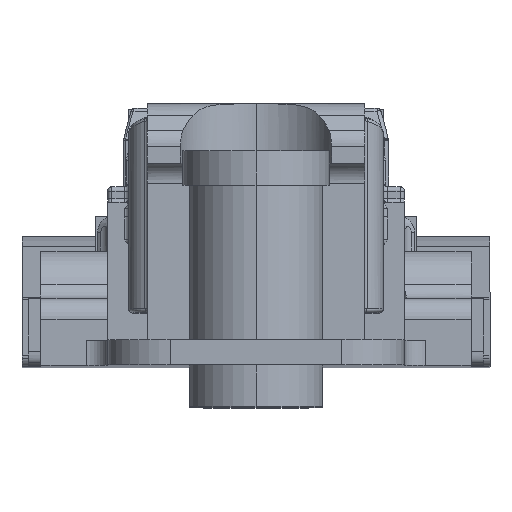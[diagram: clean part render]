
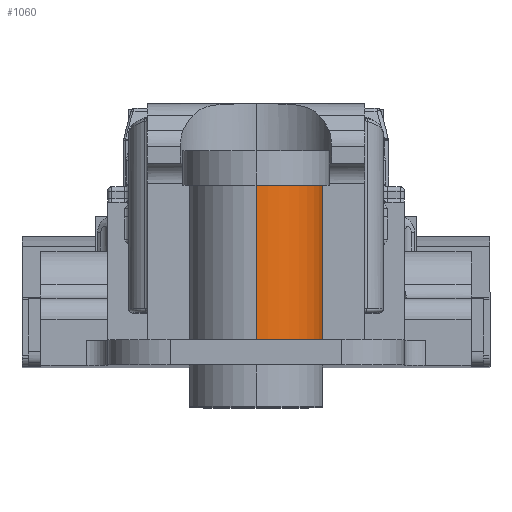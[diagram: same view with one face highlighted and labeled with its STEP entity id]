
A CAD part, top view. The second image highlights one B-rep face of the part: STEP entity #1060.
In plain terms, the highlighted cylindrical face has radius 3.2 mm (diameter 6.4 mm), a partial arc.
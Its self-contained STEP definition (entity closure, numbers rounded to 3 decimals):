
#716 = CIRCLE ( 'NONE', #10234, 3.2 ) ;
#939 = EDGE_CURVE ( 'NONE', #11709, #1752, #15691, .T. ) ;
#1060 = ADVANCED_FACE ( 'NONE', ( #14996 ), #6780, .T. ) ;
#1277 = CARTESIAN_POINT ( 'NONE',  ( 0., 1.2, 49.194 ) ) ;
#1356 = DIRECTION ( 'NONE',  ( 0., 1., 0. ) ) ;
#1643 = CARTESIAN_POINT ( 'NONE',  ( 0., 8.6, 45.994 ) ) ;
#1752 = VERTEX_POINT ( 'NONE', #6010 ) ;
#2903 = ORIENTED_EDGE ( 'NONE', *, *, #4930, .F. ) ;
#2989 = DIRECTION ( 'NONE',  ( 0., 0., 1. ) ) ;
#3229 = EDGE_CURVE ( 'NONE', #11987, #11709, #12142, .T. ) ;
#4139 = DIRECTION ( 'NONE',  ( 0., 1., 0. ) ) ;
#4535 = CARTESIAN_POINT ( 'NONE',  ( 0., 1.2, 42.794 ) ) ;
#4930 = EDGE_CURVE ( 'NONE', #7237, #1752, #716, .T. ) ;
#5734 = ORIENTED_EDGE ( 'NONE', *, *, #14187, .F. ) ;
#5745 = DIRECTION ( 'NONE',  ( 0., 1., 0. ) ) ;
#6010 = CARTESIAN_POINT ( 'NONE',  ( 0., 8.6, 42.794 ) ) ;
#6224 = VECTOR ( 'NONE', #10456, 1000. ) ;
#6780 = CYLINDRICAL_SURFACE ( 'NONE', #16840, 3.2 ) ;
#6958 = CARTESIAN_POINT ( 'NONE',  ( 0., -11.051, 45.994 ) ) ;
#7237 = VERTEX_POINT ( 'NONE', #10967 ) ;
#8039 = CARTESIAN_POINT ( 'NONE',  ( 0., -11.051, 49.194 ) ) ;
#8637 = VECTOR ( 'NONE', #14589, 1000. ) ;
#8919 = DIRECTION ( 'NONE',  ( -1., 0., 0. ) ) ;
#10234 = AXIS2_PLACEMENT_3D ( 'NONE', #1643, #5745, #11019 ) ;
#10456 = DIRECTION ( 'NONE',  ( 0., 1., 0. ) ) ;
#10967 = CARTESIAN_POINT ( 'NONE',  ( 0., 8.6, 49.194 ) ) ;
#11019 = DIRECTION ( 'NONE',  ( 0., 0., 1. ) ) ;
#11709 = VERTEX_POINT ( 'NONE', #4535 ) ;
#11987 = VERTEX_POINT ( 'NONE', #1277 ) ;
#12045 = CARTESIAN_POINT ( 'NONE',  ( 0., 1.2, 45.994 ) ) ;
#12142 = CIRCLE ( 'NONE', #15755, 3.2 ) ;
#14187 = EDGE_CURVE ( 'NONE', #11987, #7237, #17123, .T. ) ;
#14589 = DIRECTION ( 'NONE',  ( 0., 1., 0. ) ) ;
#14996 = FACE_OUTER_BOUND ( 'NONE', #15718, .T. ) ;
#15077 = ORIENTED_EDGE ( 'NONE', *, *, #3229, .T. ) ;
#15392 = ORIENTED_EDGE ( 'NONE', *, *, #939, .T. ) ;
#15691 = LINE ( 'NONE', #17092, #6224 ) ;
#15718 = EDGE_LOOP ( 'NONE', ( #15077, #15392, #2903, #5734 ) ) ;
#15755 = AXIS2_PLACEMENT_3D ( 'NONE', #12045, #1356, #8919 ) ;
#16840 = AXIS2_PLACEMENT_3D ( 'NONE', #6958, #4139, #2989 ) ;
#17092 = CARTESIAN_POINT ( 'NONE',  ( 0., -11.051, 42.794 ) ) ;
#17123 = LINE ( 'NONE', #8039, #8637 ) ;
